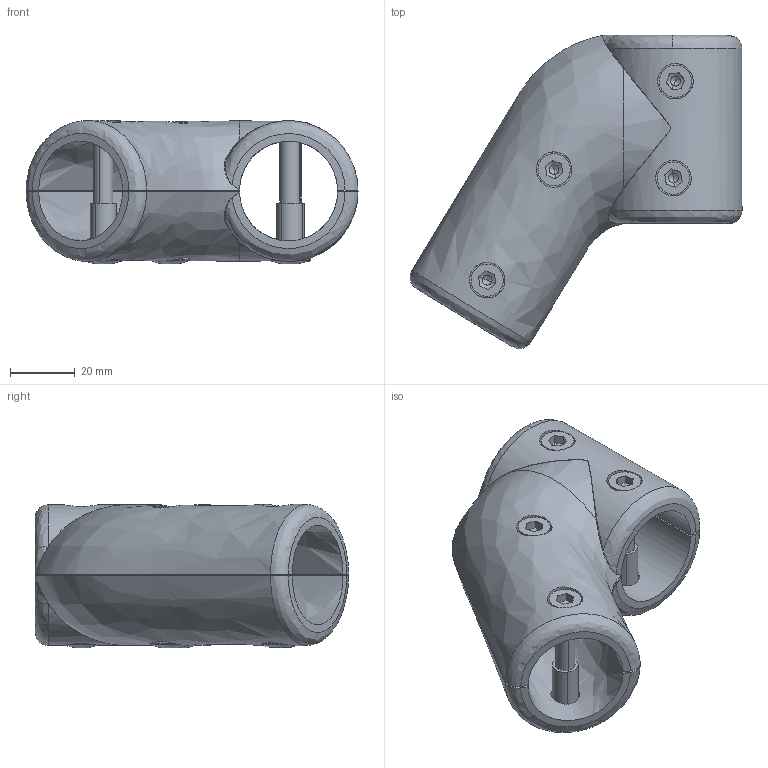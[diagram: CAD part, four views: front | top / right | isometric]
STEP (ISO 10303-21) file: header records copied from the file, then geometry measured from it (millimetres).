
FILE_DESCRIPTION (( 'STEP AP214' ), '1' );
FILE_NAME ('31000410010.STEP', '2024-09-02T09:44:35', ( '' ), ( '' ), 'SwSTEP 2.0', 'SolidWorks 2016', '' );
FILE_SCHEMA (( 'AUTOMOTIVE_DESIGN' ));
Length unit declared in the file: millimetre
Products named in the file (5): DIN 6912  (Regelgewinde) M6 x 30; 1890_Unterschale; 635179_H_S__lsenmutter; 31000410010; 1890_Oberschale
Assembly tree (10 placements, depth 2):
  31000410010
    1890_Unterschale
    1890_Oberschale
    635179_H_S__lsenmutter  x4
    DIN 6912  (Regelgewinde) M6 x 30  x4
Bounding box: 102.74 x 97.03 x 44.41 mm (x, y, z)
Volume: 96512.5 mm3; surface area: 41808.6 mm2
Topology: 10 solids, 10 shells, 238 faces, 576 edges, 362 vertices
Faces by surface type: cylinder 84, plane 70, bspline 44, cone 40
Entity records: 14858 total; most frequent: CARTESIAN_POINT 10480, ORIENTED_EDGE 644, DIRECTION 420, EDGE_CURVE 322, VERTEX_POINT 212, B_SPLINE_CURVE_WITH_KNOTS 163, AXIS2_PLACEMENT_3D 162, EDGE_LOOP 158
